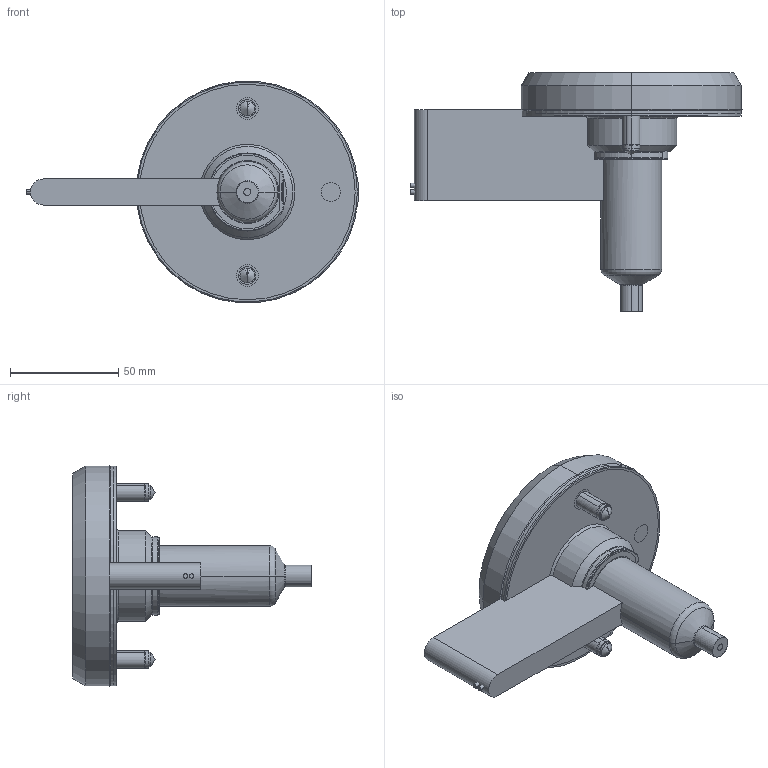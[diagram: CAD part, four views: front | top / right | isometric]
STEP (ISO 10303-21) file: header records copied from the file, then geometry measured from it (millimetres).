
FILE_DESCRIPTION (( 'STEP AP214' ), '1' );
FILE_NAME ('SOHSB6060-SOFBOP06EX.STEP', '2024-11-29T06:27:07', ( '' ), ( '' ), 'SwSTEP 2.0', 'SolidWorks 2022', '' );
FILE_SCHEMA (( 'AUTOMOTIVE_DESIGN' ));
Length unit declared in the file: millimetre
Products named in the file (11): hexagon socket head cap screws gb_GB_FASTENER_SCREWS_HSHCS M8X25-C; EcoONE-HSB06-Point Gate Needle Tip-Standard_SOPGN0601; SOHSB6060-SOFBOP06EX; EcoONE-HSB06-Open Gate Extended Full Body Standad Tip Assembly_SOFBOP06EX; EcoONE-HSB06-06005_SOTC10200-J; EcoONE-HSB06-Open Gate Extended Full Body Retainer Tip_SOFRT0602; EcoONE-HSB06-06004_SONH18055; EcoONE-HSB06-00002(A)_SOHSBLR06; EcoONE-HSB06-06006(A)_SONHC06; EcoONE-HSB06-06003(A)_SOHSBNB6060; EcoONE-HSB06-Open Gate Cut-out Details_Ext Sprue Gate or Full Body Gate
Assembly tree (12 placements, depth 3):
  SOHSB6060-SOFBOP06EX
    EcoONE-HSB06-06003(A)_SOHSBNB6060
    EcoONE-HSB06-06004_SONH18055
    EcoONE-HSB06-06005_SOTC10200-J
    EcoONE-HSB06-06006(A)_SONHC06  x2
    EcoONE-HSB06-00002(A)_SOHSBLR06
    hexagon socket head cap screws gb_GB_FASTENER_SCREWS_HSHCS M8X25-C  x2
    EcoONE-HSB06-Open Gate Extended Full Body Standad Tip Assembly_SOFBOP06EX
      EcoONE-HSB06-Open Gate Extended Full Body Retainer Tip_SOFRT0602
      EcoONE-HSB06-Point Gate Needle Tip-Standard_SOPGN0601
    EcoONE-HSB06-Open Gate Cut-out Details_Ext Sprue Gate or Full Body Gate
Bounding box: 153.01 x 110 x 102.14 mm (x, y, z)
Volume: 286485.2 mm3; surface area: 83200.8 mm2
Topology: 11 solids, 11 shells, 500 faces, 1262 edges, 796 vertices
Faces by surface type: cylinder 154, plane 127, bspline 110, cone 79, torus 22, sphere 8
Entity records: 30237 total; most frequent: CARTESIAN_POINT 19163, ORIENTED_EDGE 2304, DIRECTION 1865, EDGE_CURVE 1152, AXIS2_PLACEMENT_3D 754, VERTEX_POINT 733, EDGE_LOOP 499, ADVANCED_FACE 459
